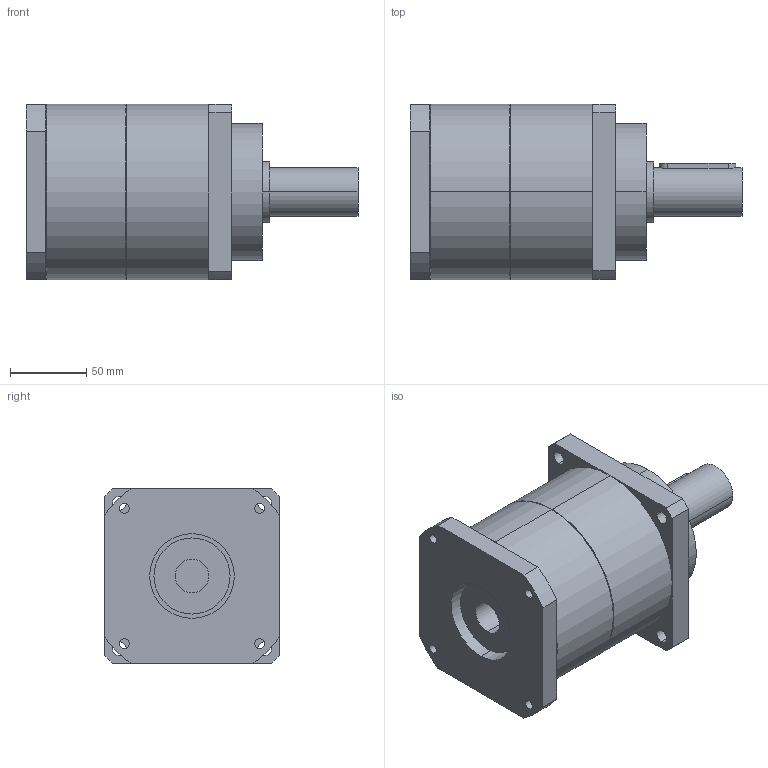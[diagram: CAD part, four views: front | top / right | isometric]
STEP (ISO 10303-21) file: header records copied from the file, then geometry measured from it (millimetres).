
FILE_DESCRIPTION(('CoCreate Modeling STEP Export'),'2;1');
FILE_NAME('GPT120_ig-3-4-5-7-10_32_B5A_22_P01.stp','2015-02-04T16:59:19',(''),(''),'CoCreate Modeling STEP processor for AP214 (Solid Model)','CoCreate Modeling 16.00C 25-Feb-2009 (C) Parametric Technology GmbH','');
FILE_SCHEMA(('AUTOMOTIVE_DESIGN { 1 0 10303 214 1 1 1 1 }'));
Length unit declared in the file: millimetre
Products named in the file (2): GPT120_ig-3-4-5-7-10_32_B5A_22_P01
Assembly tree (1 placements, depth 2):
  GPT120_ig-3-4-5-7-10_32_B5A_22_P01
    GPT120_ig-3-4-5-7-10_32_B5A_22_P01
Bounding box: 218 x 115 x 115 mm (x, y, z)
Volume: 1608092.9 mm3; surface area: 104884 mm2
Topology: 1 solids, 1 shells, 74 faces, 196 edges, 133 vertices
Faces by surface type: cylinder 44, plane 26, cone 4
Entity records: 2493 total; most frequent: CARTESIAN_POINT 747, ORIENTED_EDGE 392, DIRECTION 310, EDGE_CURVE 196, VERTEX_POINT 133, AXIS2_PLACEMENT_3D 114, EDGE_LOOP 99, VECTOR 82
